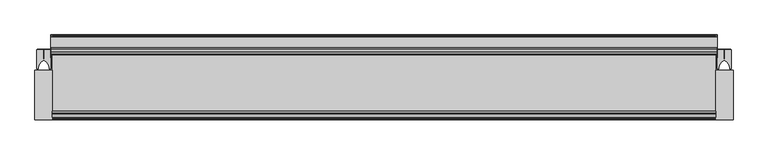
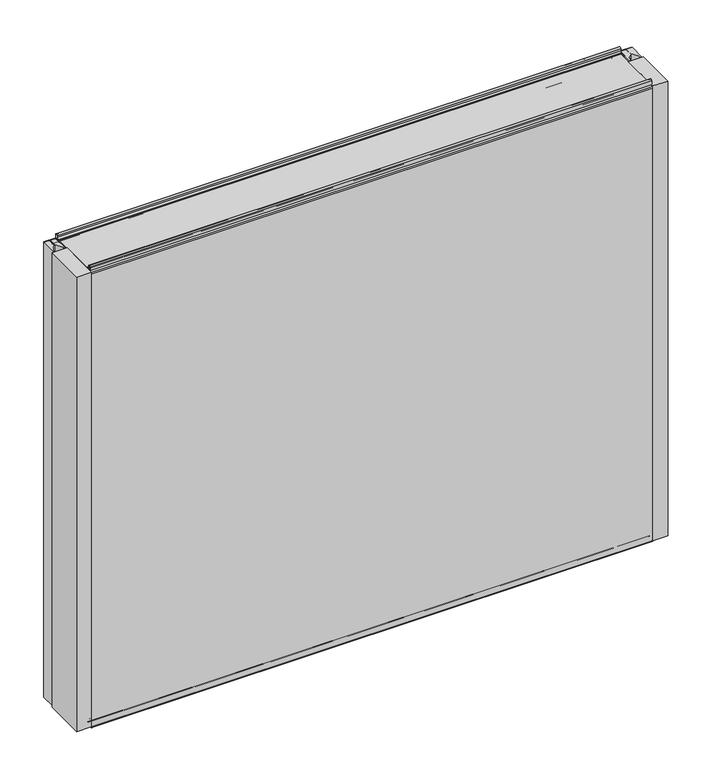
"""IFC4 building model written with IfcOpenShell, lengths in millimetres: plate geometry, Fronttop : Fronttop 150/1000."""

from ifc_helpers import new_model, si_unit, point, frame, frame_2d, origin, origin_with_axes, place, context, project, spatial, polyline, circle_curve, trimmed, segment, composite_curve, outline, extrude, source, transform, mapped, element, save
from ifc_brep_helpers import plane_surface, cylinder_surface, revolved_surface, advanced_brep


def plate_eae69fd8(model_context):
    return source(origin(), model_context, "Body", "SolidModel", [
        advanced_brep(
        [(-586.5, 124.0, 1008.0), (-586.5, 121.0, 1008.0), (-586.5, 121.0, 1004.0), (-586.5, 117.0, 1000.0), (-586.5, 115.0, 1000.0), (-586.5, 115.0, 1001.0), (-586.5, 117.0, 1001.0), (-586.5, 120.0, 1004.0), (-586.5, 120.0, 1008.0), (-586.5, 125.0, 1008.0), (-586.5, 125.0, 1000.0), (-586.5, 124.0, 1000.0), (586.5, 125.0, 1008.0), (586.5, 120.0, 1008.0), (586.5, 120.0, 1004.0), (586.5, 117.0, 1001.0), (586.5, 115.0, 1001.0), (586.5, 115.0, 1000.0), (586.5, 117.0, 1000.0), (586.5, 121.0, 1004.0), (586.5, 121.0, 1008.0), (586.5, 124.0, 1008.0), (586.5, 124.0, 1000.0), (586.5, 125.0, 1000.0), (-586.5, 117.0, 2.0), (586.5, 117.0, 2.0), (586.5, 115.0, 2.0), (-586.5, 115.0, 2.0), (-586.5, 119.0, 4.0), (586.5, 119.0, 4.0), (-586.5, 119.0, 8.0), (586.5, 119.0, 8.0), (-586.5, 126.0, 8.0), (586.5, 126.0, 8.0), (-586.5, 126.0, 0.0), (586.5, 126.0, 0.0), (-586.5, 129.0, -3.0), (586.5, 129.0, -3.0), (-586.5, 125.0, -3.0), (-587.5, 125.0, -3.0), (-587.5, 147.0, -3.0), (-586.5, 147.0, -3.0), (586.5, 147.0, -3.0), (587.5, 147.0, -3.0), (587.5, 125.0, -3.0), (586.5, 125.0, -3.0), (-586.5, 150.0, 0.0), (586.5, 150.0, 0.0), (-587.5, 150.0, 0.0), (-587.5, 150.0, 969.0), (-586.5, 150.0, 969.0), (586.5, 150.0, 969.0), (587.5, 150.0, 969.0), (587.5, 150.0, 0.0), (-586.5, 147.0, 972.0), (586.5, 147.0, 972.0), (-587.5, 147.0, 972.0), (-587.5, 128.0, 972.0), (-586.5, 128.0, 972.0), (586.5, 128.0, 972.0), (587.5, 128.0, 972.0), (587.5, 147.0, 972.0), (-586.5, 125.0, 975.0), (586.5, 125.0, 975.0), (-587.5, 125.0, 975.0), (-587.5, 125.0, 1000.0), (587.5, 125.0, 1000.0), (587.5, 125.0, 975.0), (-586.5, 124.0, 975.0), (586.5, 124.0, 975.0), (-586.5, 128.0, 971.0), (586.5, 128.0, 971.0), (-586.5, 147.0, 971.0), (586.5, 147.0, 971.0), (-586.5, 149.0, 969.0), (586.5, 149.0, 969.0), (-586.5, 149.0, 0.0), (586.5, 149.0, 0.0), (-586.5, 147.0, -2.0), (586.5, 147.0, -2.0), (-586.5, 129.0, -2.0), (586.5, 129.0, -2.0), (-586.5, 127.0, 0.0), (586.5, 127.0, 0.0), (-586.5, 127.0, 8.0), (586.5, 127.0, 8.0), (-586.5, 118.0, 8.0), (586.5, 118.0, 8.0), (-586.5, 118.0, 4.0), (586.5, 118.0, 4.0), (-586.5, 117.0, 3.0), (586.5, 117.0, 3.0), (-586.5, 115.0, 3.0), (586.5, 115.0, 3.0), (587.5, 110.0, 1000.0), (587.5, 110.0, 0.0), (587.5, 125.0, 0.0), (586.5, 125.0, 0.0), (586.5, 110.0, 0.0), (586.5, 110.0, 1000.0), (-587.5, 125.0, 0.0), (-587.5, 110.0, 0.0), (-587.5, 110.0, 1000.0), (-586.5, 110.0, 1000.0), (-586.5, 110.0, 0.0), (-586.5, 125.0, 0.0)],
        [
            (0, 1, circle_curve(frame((-586.5, 122.5, 1008.0), z_axis=(1.0, 0.0, 0.0), x_axis=(0.0, -1.0, 0.0)), 1.5)),
            (1, 2),
            (2, 3, circle_curve(frame((-586.5, 117.0, 1004.0), z_axis=(-1.0, 0.0, 0.0), x_axis=(0.0, -1.0, 0.0)), 4.0)),
            (3, 4),
            (4, 5),
            (5, 6),
            (6, 7, circle_curve(frame((-586.5, 117.0, 1004.0), z_axis=(1.0, 0.0, 0.0), x_axis=(0.0, -1.0, 0.0)), 3.0)),
            (7, 8),
            (8, 9, circle_curve(frame((-586.5, 122.5, 1008.0), z_axis=(-1.0, 0.0, 0.0), x_axis=(0.0, -1.0, 0.0)), 2.5)),
            (9, 10),
            (10, 11),
            (11, 0),
            (12, 13, circle_curve(frame((586.5, 122.5, 1008.0), z_axis=(1.0, 0.0, 0.0), x_axis=(0.0, -1.0, 0.0)), 2.5)),
            (13, 14),
            (14, 15, circle_curve(frame((586.5, 117.0, 1004.0), z_axis=(-1.0, 0.0, 0.0), x_axis=(0.0, -1.0, 0.0)), 3.0)),
            (15, 16),
            (16, 17),
            (17, 18),
            (18, 19, circle_curve(frame((586.5, 117.0, 1004.0), z_axis=(1.0, 0.0, 0.0), x_axis=(0.0, -1.0, 0.0)), 4.0)),
            (19, 20),
            (20, 21, circle_curve(frame((586.5, 122.5, 1008.0), z_axis=(-1.0, 0.0, 0.0), x_axis=(0.0, -1.0, 0.0)), 1.5)),
            (21, 22),
            (22, 23),
            (23, 12),
            (24, 25),
            (25, 26),
            (26, 27),
            (27, 24),
            (24, 28, circle_curve(frame((-586.5, 117.0, 4.0), z_axis=(1.0, 0.0, 0.0), x_axis=(0.0, -1.0, 0.0)), 2.0)),
            (28, 29),
            (29, 25, circle_curve(frame((586.5, 117.0, 4.0), z_axis=(-1.0, 0.0, 0.0), x_axis=(0.0, -1.0, 0.0)), 2.0)),
            (28, 30),
            (30, 31),
            (31, 29),
            (30, 32, circle_curve(frame((-586.5, 122.5, 8.0), z_axis=(-1.0, 0.0, 0.0), x_axis=(0.0, -1.0, 0.0)), 3.5)),
            (32, 33),
            (33, 31, circle_curve(frame((586.5, 122.5, 8.0), z_axis=(1.0, 0.0, 0.0), x_axis=(0.0, -1.0, 0.0)), 3.5)),
            (32, 34),
            (34, 35),
            (35, 33),
            (34, 36, circle_curve(frame((-586.5, 129.0, 0.0), z_axis=(1.0, 0.0, 0.0), x_axis=(0.0, -1.0, 0.0)), 3.0)),
            (36, 37),
            (37, 35, circle_curve(frame((586.5, 129.0, 0.0), z_axis=(-1.0, 0.0, 0.0), x_axis=(0.0, -1.0, 0.0)), 3.0)),
            (36, 38),
            (38, 39),
            (39, 40),
            (40, 41),
            (41, 42),
            (42, 43),
            (43, 44),
            (44, 45),
            (45, 37),
            (41, 46, circle_curve(frame((-586.5, 147.0, 0.0), z_axis=(1.0, 0.0, 0.0), x_axis=(0.0, -1.0, 0.0)), 3.0)),
            (46, 47),
            (47, 42, circle_curve(frame((586.5, 147.0, 0.0), z_axis=(-1.0, 0.0, 0.0), x_axis=(0.0, -1.0, 0.0)), 3.0)),
            (46, 48),
            (48, 49),
            (49, 50),
            (50, 51),
            (51, 52),
            (52, 53),
            (53, 47),
            (50, 54, circle_curve(frame((-586.5, 147.0, 969.0), z_axis=(1.0, 0.0, 0.0), x_axis=(0.0, -1.0, 0.0)), 3.0)),
            (54, 55),
            (55, 51, circle_curve(frame((586.5, 147.0, 969.0), z_axis=(-1.0, 0.0, 0.0), x_axis=(0.0, -1.0, 0.0)), 3.0)),
            (54, 56),
            (56, 57),
            (57, 58),
            (58, 59),
            (59, 60),
            (60, 61),
            (61, 55),
            (58, 62, circle_curve(frame((-586.5, 128.0, 975.0), z_axis=(-1.0, 0.0, 0.0), x_axis=(0.0, -1.0, 0.0)), 3.0)),
            (62, 63),
            (63, 59, circle_curve(frame((586.5, 128.0, 975.0), z_axis=(1.0, 0.0, 0.0), x_axis=(0.0, -1.0, 0.0)), 3.0)),
            (62, 64),
            (64, 65),
            (65, 10),
            (9, 12),
            (23, 66),
            (66, 67),
            (67, 63),
            (8, 13),
            (7, 14),
            (6, 15),
            (5, 16),
            (4, 17),
            (4, 3),
            (3, 18),
            (18, 17),
            (2, 19),
            (1, 20),
            (0, 21),
            (11, 68),
            (68, 69),
            (69, 22),
            (68, 70, circle_curve(frame((-586.5, 128.0, 975.0), z_axis=(1.0, 0.0, 0.0), x_axis=(0.0, -1.0, 0.0)), 4.0)),
            (70, 71),
            (71, 69, circle_curve(frame((586.5, 128.0, 975.0), z_axis=(-1.0, 0.0, 0.0), x_axis=(0.0, -1.0, 0.0)), 4.0)),
            (70, 72),
            (72, 73),
            (73, 71),
            (72, 74, circle_curve(frame((-586.5, 147.0, 969.0), z_axis=(-1.0, 0.0, 0.0), x_axis=(0.0, -1.0, 0.0)), 2.0)),
            (74, 75),
            (75, 73, circle_curve(frame((586.5, 147.0, 969.0), z_axis=(1.0, 0.0, 0.0), x_axis=(0.0, -1.0, 0.0)), 2.0)),
            (74, 76),
            (76, 77),
            (77, 75),
            (76, 78, circle_curve(frame((-586.5, 147.0, 0.0), z_axis=(-1.0, 0.0, 0.0), x_axis=(0.0, -1.0, 0.0)), 2.0)),
            (78, 79),
            (79, 77, circle_curve(frame((586.5, 147.0, 0.0), z_axis=(1.0, 0.0, 0.0), x_axis=(0.0, -1.0, 0.0)), 2.0)),
            (78, 80),
            (80, 81),
            (81, 79),
            (80, 82, circle_curve(frame((-586.5, 129.0, 0.0), z_axis=(-1.0, 0.0, 0.0), x_axis=(0.0, -1.0, 0.0)), 2.0)),
            (82, 83),
            (83, 81, circle_curve(frame((586.5, 129.0, 0.0), z_axis=(1.0, 0.0, 0.0), x_axis=(0.0, -1.0, 0.0)), 2.0)),
            (82, 84),
            (84, 85),
            (85, 83),
            (84, 86, circle_curve(frame((-586.5, 122.5, 8.0), z_axis=(1.0, 0.0, 0.0), x_axis=(0.0, -1.0, 0.0)), 4.5)),
            (86, 87),
            (87, 85, circle_curve(frame((586.5, 122.5, 8.0), z_axis=(-1.0, 0.0, 0.0), x_axis=(0.0, -1.0, 0.0)), 4.5)),
            (86, 88),
            (88, 89),
            (89, 87),
            (88, 90, circle_curve(frame((-586.5, 117.0, 4.0), z_axis=(-1.0, 0.0, 0.0), x_axis=(0.0, -1.0, 0.0)), 1.0)),
            (90, 91),
            (91, 89, circle_curve(frame((586.5, 117.0, 4.0), z_axis=(1.0, 0.0, 0.0), x_axis=(0.0, -1.0, 0.0)), 1.0)),
            (90, 92),
            (92, 93),
            (93, 91),
            (26, 93),
            (92, 27),
            (66, 94),
            (94, 95),
            (95, 96),
            (96, 44),
            (43, 53, circle_curve(frame((587.5, 147.0, 0.0), z_axis=(1.0, 0.0, 0.0), x_axis=(0.0, 1.0, 0.0)), 3.0)),
            (52, 61, circle_curve(frame((587.5, 147.0, 969.0), z_axis=(1.0, 0.0, 0.0), x_axis=(0.0, 1.0, 0.0)), 3.0)),
            (60, 67, circle_curve(frame((587.5, 128.0, 975.0), z_axis=(-1.0, 0.0, 0.0), x_axis=(0.0, 1.0, 0.0)), 3.0)),
            (45, 97),
            (97, 98),
            (98, 99),
            (99, 17),
            (18, 22),
            (99, 94),
            (98, 95),
            (97, 96),
            (64, 57, circle_curve(frame((-587.5, 128.0, 975.0), z_axis=(1.0, 0.0, 0.0), x_axis=(0.0, 1.0, 0.0)), 3.0)),
            (56, 49, circle_curve(frame((-587.5, 147.0, 969.0), z_axis=(-1.0, 0.0, 0.0), x_axis=(0.0, 1.0, 0.0)), 3.0)),
            (48, 40, circle_curve(frame((-587.5, 147.0, 0.0), z_axis=(-1.0, 0.0, 0.0), x_axis=(0.0, 1.0, 0.0)), 3.0)),
            (39, 100),
            (100, 101),
            (101, 102),
            (102, 65),
            (103, 104),
            (104, 105),
            (105, 38),
            (11, 3),
            (4, 103),
            (102, 103),
            (101, 104),
            (100, 105),
        ],
        [
            plane_surface(frame((-586.5, 0.0, 0.0), z_axis=(-1.0, 0.0, 0.0), x_axis=(0.0, 0.0, 1.0))),
            plane_surface(frame((586.5, 0.0, 0.0), z_axis=(1.0, 0.0, 0.0), x_axis=(0.0, 0.0, 1.0))),
            plane_surface(frame((-586.5, 117.0, 2.0), z_axis=(0.0, 0.0, -1.0), x_axis=(1.0, 0.0, 0.0))),
            cylinder_surface(frame((-586.5, 117.0, 4.0), z_axis=(-1.0, 0.0, 0.0), x_axis=(0.0, -1.0, 0.0)), 2.0),
            plane_surface(frame((-586.5, 119.0, 8.0), z_axis=(0.0, 1.0, 0.0), x_axis=(1.0, 0.0, 0.0))),
            revolved_surface(polyline([(586.5, 119.0, 8.0), (-586.5, 119.0, 8.0)]), (-586.5, 122.5, 8.0), (1.0, 0.0, 0.0)),
            plane_surface(frame((-586.5, 126.0, 0.0), z_axis=(0.0, -1.0, 0.0), x_axis=(1.0, 0.0, 0.0))),
            cylinder_surface(frame((-586.5, 129.0, 0.0), z_axis=(-1.0, 0.0, 0.0), x_axis=(0.0, -1.0, 0.0)), 3.0),
            plane_surface(frame((-586.5, 147.0, -3.0), z_axis=(0.0, 0.0, -1.0), x_axis=(1.0, 0.0, 0.0))),
            cylinder_surface(frame((-586.5, 147.0, 0.0), z_axis=(-1.0, 0.0, 0.0), x_axis=(0.0, -1.0, 0.0)), 3.0),
            plane_surface(frame((-586.5, 150.0, 969.0), z_axis=(0.0, 1.0, 0.0), x_axis=(1.0, 0.0, 0.0))),
            cylinder_surface(frame((-586.5, 147.0, 969.0), z_axis=(-1.0, 0.0, 0.0), x_axis=(0.0, -1.0, 0.0)), 3.0),
            plane_surface(frame((-586.5, 128.0, 972.0), z_axis=(0.0, 0.0, 1.0), x_axis=(1.0, 0.0, 0.0))),
            revolved_surface(polyline([(586.5, 125.0, 975.0), (-586.5, 125.0, 975.0)]), (-586.5, 128.0, 975.0), (1.0, 0.0, 0.0)),
            plane_surface(frame((-586.5, 125.0, 1008.0), z_axis=(0.0, 1.0, 0.0), x_axis=(1.0, 0.0, 0.0))),
            cylinder_surface(frame((-586.5, 122.5, 1008.0), z_axis=(-1.0, 0.0, 0.0), x_axis=(0.0, -1.0, 0.0)), 2.5),
            plane_surface(frame((-586.5, 120.0, 1004.0), z_axis=(0.0, -1.0, 0.0), x_axis=(1.0, 0.0, 0.0))),
            revolved_surface(polyline([(586.5, 114.0, 1004.0), (-586.5, 114.0, 1004.0)]), (-586.5, 117.0, 1004.0), (1.0, 0.0, 0.0)),
            plane_surface(frame((-586.5, 115.0, 1001.0), z_axis=(0.0, 0.0, 1.0), x_axis=(1.0, 0.0, 0.0))),
            plane_surface(frame((-586.5, 115.0, 1000.0), z_axis=(0.0, -1.0, 0.0), x_axis=(1.0, 0.0, 0.0))),
            plane_surface(frame((-586.5, 117.0, 1000.0), z_axis=(0.0, 0.0, -1.0), x_axis=(1.0, 0.0, 0.0))),
            cylinder_surface(frame((-586.5, 117.0, 1004.0), z_axis=(-1.0, 0.0, 0.0), x_axis=(0.0, -1.0, 0.0)), 4.0),
            plane_surface(frame((-586.5, 121.0, 1008.0), z_axis=(0.0, 1.0, 0.0), x_axis=(1.0, 0.0, 0.0))),
            revolved_surface(polyline([(586.5, 121.0, 1008.0), (-586.5, 121.0, 1008.0)]), (-586.5, 122.5, 1008.0), (1.0, 0.0, 0.0)),
            plane_surface(frame((-586.5, 124.0, 975.0), z_axis=(0.0, -1.0, 0.0), x_axis=(1.0, 0.0, 0.0))),
            cylinder_surface(frame((-586.5, 128.0, 975.0), z_axis=(-1.0, 0.0, 0.0), x_axis=(0.0, -1.0, 0.0)), 4.0),
            plane_surface(frame((-586.5, 147.0, 971.0), z_axis=(0.0, 0.0, -1.0), x_axis=(1.0, 0.0, 0.0))),
            revolved_surface(polyline([(586.5, 145.0, 969.0), (-586.5, 145.0, 969.0)]), (-586.5, 147.0, 969.0), (1.0, 0.0, 0.0)),
            plane_surface(frame((-586.5, 149.0, 0.0), z_axis=(0.0, -1.0, 0.0), x_axis=(1.0, 0.0, 0.0))),
            revolved_surface(polyline([(586.5, 145.0, 0.0), (-586.5, 145.0, 0.0)]), (-586.5, 147.0, 0.0), (1.0, 0.0, 0.0)),
            plane_surface(frame((-586.5, 129.0, -2.0), z_axis=(0.0, 0.0, 1.0), x_axis=(1.0, 0.0, 0.0))),
            revolved_surface(polyline([(586.5, 127.0, 0.0), (-586.5, 127.0, 0.0)]), (-586.5, 129.0, 0.0), (1.0, 0.0, 0.0)),
            plane_surface(frame((-586.5, 127.0, 8.0), z_axis=(0.0, 1.0, 0.0), x_axis=(1.0, 0.0, 0.0))),
            cylinder_surface(frame((-586.5, 122.5, 8.0), z_axis=(-1.0, 0.0, 0.0), x_axis=(0.0, -1.0, 0.0)), 4.5),
            plane_surface(frame((-586.5, 118.0, 4.0), z_axis=(0.0, -1.0, 0.0), x_axis=(1.0, 0.0, 0.0))),
            revolved_surface(polyline([(586.5, 116.0, 4.0), (-586.5, 116.0, 4.0)]), (-586.5, 117.0, 4.0), (1.0, 0.0, 0.0)),
            plane_surface(frame((-586.5, 115.0, 3.0), z_axis=(0.0, 0.0, 1.0), x_axis=(1.0, 0.0, 0.0))),
            plane_surface(frame((-586.5, 115.0, 2.0), z_axis=(0.0, -1.0, 0.0), x_axis=(1.0, 0.0, 0.0))),
            plane_surface(frame((587.5, 125.0, 1000.0), z_axis=(1.0, 0.0, 0.0), x_axis=(0.0, -1.0, 0.0))),
            plane_surface(frame((586.5, 125.0, 1000.0), z_axis=(-1.0, 0.0, 0.0), x_axis=(0.0, 1.0, 0.0))),
            plane_surface(frame((587.5, 125.0, 1000.0), z_axis=(0.0, 0.0, 1.0), x_axis=(-1.0, 0.0, 0.0))),
            plane_surface(frame((587.5, 110.0, 1000.0), z_axis=(0.0, -1.0, 0.0), x_axis=(-1.0, 0.0, 0.0))),
            plane_surface(frame((587.5, 110.0, 0.0), z_axis=(0.0, 0.0, -1.0), x_axis=(-1.0, 0.0, 0.0))),
            cylinder_surface(frame((586.5, 147.0, 0.0), z_axis=(1.0, 0.0, 0.0), x_axis=(0.0, 1.0, 0.0)), 3.0),
            cylinder_surface(frame((586.5, 147.0, 969.0), z_axis=(1.0, 0.0, 0.0), x_axis=(0.0, 1.0, 0.0)), 3.0),
            revolved_surface(polyline([(586.5, 131.0, 975.0), (587.5, 131.0, 975.0)]), (586.5, 128.0, 975.0), (-1.0, 0.0, 0.0)),
            plane_surface(frame((-587.5, 125.0, 1000.0), z_axis=(-1.0, 0.0, 0.0), x_axis=(0.0, 1.0, 0.0))),
            plane_surface(frame((-586.5, 125.0, 1000.0), z_axis=(1.0, 0.0, 0.0), x_axis=(0.0, -1.0, 0.0))),
            plane_surface(frame((-586.5, 125.0, 1000.0), z_axis=(0.0, 0.0, 1.0), x_axis=(-1.0, 0.0, 0.0))),
            plane_surface(frame((-586.5, 110.0, 1000.0), z_axis=(0.0, -1.0, 0.0), x_axis=(-1.0, 0.0, 0.0))),
            plane_surface(frame((-586.5, 110.0, 0.0), z_axis=(0.0, 0.0, -1.0), x_axis=(-1.0, 0.0, 0.0))),
            cylinder_surface(frame((-587.5, 147.0, 0.0), z_axis=(1.0, 0.0, 0.0), x_axis=(0.0, 1.0, 0.0)), 3.0),
            cylinder_surface(frame((-587.5, 147.0, 969.0), z_axis=(1.0, 0.0, 0.0), x_axis=(0.0, 1.0, 0.0)), 3.0),
            revolved_surface(polyline([(-587.5, 131.0, 975.0), (-586.5, 131.0, 975.0)]), (-587.5, 128.0, 975.0), (-1.0, 0.0, 0.0)),
            plane_surface(frame((587.5, 125.0, 0.0), z_axis=(0.0, -1.0, 0.0), x_axis=(-1.0, 0.0, 0.0))),
            plane_surface(frame((-586.5, 125.0, 0.0), z_axis=(0.0, -1.0, 0.0), x_axis=(-1.0, 0.0, 0.0))),
        ],
        [
            (0, [[1, 2, 3, 4, 5, 6, 7, 8, 9, 10, 11, 12]]),
            (1, [[13, 14, 15, 16, 17, 18, 19, 20, 21, 22, 23, 24]]),
            (2, [[25, 26, 27, 28]]),
            (3, [[-25, 29, 30, 31]]),
            (4, [[-30, 32, 33, 34]]),
            (5, [[-33, 35, 36, 37]]),
            (6, [[-36, 38, 39, 40]]),
            (7, [[-39, 41, 42, 43]]),
            (8, [[-42, 44, 45, 46, 47, 48, 49, 50, 51, 52]]),
            (9, [[-48, 53, 54, 55]]),
            (10, [[-54, 56, 57, 58, 59, 60, 61, 62]]),
            (11, [[-59, 63, 64, 65]]),
            (12, [[-64, 66, 67, 68, 69, 70, 71, 72]]),
            (13, [[-69, 73, 74, 75]]),
            (14, [[-74, 76, 77, 78, -10, 79, -24, 80, 81, 82]]),
            (15, [[-9, 83, -13, -79]]),
            (16, [[-8, 84, -14, -83]]),
            (17, [[-7, 85, -15, -84]]),
            (18, [[-6, 86, -16, -85]]),
            (19, [[-5, 87, -17, -86]]),
            (20, [[-87, 88, 89, 90]]),
            (21, [[-3, 91, -19, -89]]),
            (22, [[-2, 92, -20, -91]]),
            (23, [[-1, 93, -21, -92]]),
            (24, [[-93, -12, 94, 95, 96, -22]]),
            (25, [[-95, 97, 98, 99]]),
            (26, [[-98, 100, 101, 102]]),
            (27, [[-101, 103, 104, 105]]),
            (28, [[-104, 106, 107, 108]]),
            (29, [[-107, 109, 110, 111]]),
            (30, [[-110, 112, 113, 114]]),
            (31, [[-113, 115, 116, 117]]),
            (32, [[-116, 118, 119, 120]]),
            (33, [[-119, 121, 122, 123]]),
            (34, [[-122, 124, 125, 126]]),
            (35, [[-125, 127, 128, 129]]),
            (36, [[-128, 130, 131, 132]]),
            (37, [[-27, 133, -131, 134]]),
            (38, [[135, 136, 137, 138, -50, 139, -61, 140, -71, 141, -81]]),
            (39, [[142, 143, 144, 145, -90, 146, -96, -99, -102, -105, -108, -111, -114, -117, -120, -123, -126, -129, -132, -133, -26, -31, -34, -37, -40, -43, -52]]),
            (40, [[-135, -80, -23, -146, -18, -145, 147]]),
            (41, [[-136, -147, -144, 148]]),
            (42, [[-137, -148, -143, 149]]),
            (43, [[-139, -49, -55, -62]]),
            (44, [[-140, -60, -65, -72]]),
            (45, [[-141, -70, -75, -82]]),
            (46, [[-77, 150, -67, 151, -57, 152, -46, 153, 154, 155, 156]]),
            (47, [[157, 158, 159, -44, -41, -38, -35, -32, -29, -28, -134, -130, -127, -124, -121, -118, -115, -112, -109, -106, -103, -100, -97, -94, 160, -88, 161]]),
            (48, [[-156, 162, -161, -4, -160, -11, -78]]),
            (49, [[-155, 163, -157, -162]]),
            (50, [[-154, 164, -158, -163]]),
            (51, [[-152, -56, -53, -47]]),
            (52, [[-151, -66, -63, -58]]),
            (53, [[-150, -76, -73, -68]]),
            (54, [[-138, -149, -142, -51]]),
            (55, [[-153, -45, -159, -164]]),
        ],
    ),
        extrude(outline(composite_curve([segment(polyline([(-612.5001545, 123.5), (-600.75, 123.5), (-600.75, 107.5), (-599.25, 107.5), (-599.25, 123.5), (-587.4998455, 123.5), (-587.4998455, 90.0), (-590.25, 90.0), (-590.25, 92.5)]), True, "CONTINUOUS"), segment(trimmed(circle_curve(frame_2d((-608.0338021, 89.3183984)), 18.0661619), [point((-590.25, 92.5))], [point((-600.0, 105.5))], True, "CARTESIAN"), True, "CONTINUOUS"), segment(trimmed(circle_curve(frame_2d((-591.9661979, 89.3183984)), 18.0661619), [point((-600.0, 105.5))], [point((-609.75, 92.5))], True, "CARTESIAN"), True, "CONTINUOUS"), segment(polyline([(-609.75, 92.5), (-609.75, 90.0), (-612.5001545, 90.0), (-612.5001545, 123.5)]), True, "CONTINUOUS")], self_intersect=False)), origin_with_axes(), (0.0, 0.0, 1.0), 1000.0),
        extrude(outline(polyline([(-584.5, 0.0), (-615.5, 0.0), (-615.5, 88.0), (-584.5, 88.0), (-584.5, 0.0)])), origin_with_axes(), (0.0, 0.0, 1.0), 1000.0),
        extrude(outline(polyline([(-611.5051154, 125.0), (-588.4948846, 125.0), (-588.4948846, 123.5), (-599.3497504, 123.5), (-599.3497504, 109.0759655), (-600.65, 109.0759655), (-600.65, 123.5), (-611.5051154, 123.5), (-611.5051154, 125.0)])), origin_with_axes(), (0.0, 0.0, 1.0), 1000.0),
        extrude(outline(composite_curve([segment(polyline([(587.4998455, 123.5), (599.25, 123.5), (599.25, 107.5), (600.75, 107.5), (600.75, 123.5), (612.5001545, 123.5), (612.5001545, 90.0), (609.75, 90.0), (609.75, 92.5)]), True, "CONTINUOUS"), segment(trimmed(circle_curve(frame_2d((591.9661979, 89.3183984)), 18.0661619), [point((609.75, 92.5))], [point((600.0, 105.5))], True, "CARTESIAN"), True, "CONTINUOUS"), segment(trimmed(circle_curve(frame_2d((608.0338021, 89.3183984)), 18.0661619), [point((600.0, 105.5))], [point((590.25, 92.5))], True, "CARTESIAN"), True, "CONTINUOUS"), segment(polyline([(590.25, 92.5), (590.25, 90.0), (587.4998455, 90.0), (587.4998455, 123.5)]), True, "CONTINUOUS")], self_intersect=False)), origin_with_axes(), (0.0, 0.0, 1.0), 1000.0),
        extrude(outline(polyline([(615.5, 0.0), (584.5, 0.0), (584.5, 88.0), (615.5, 88.0), (615.5, 0.0)])), origin_with_axes(), (0.0, 0.0, 1.0), 1000.0),
        extrude(outline(polyline([(588.4948846, 125.0), (611.5051154, 125.0), (611.5051154, 123.5), (600.6502496, 123.5), (600.6502496, 109.0759655), (599.35, 109.0759655), (599.35, 123.5), (588.4948846, 123.5), (588.4948846, 125.0)])), origin_with_axes(), (0.0, 0.0, 1.0), 1000.0),
        advanced_brep(
        [(-584.5, 13.0, 1001.0), (-584.5, 15.0, 1001.0), (-584.5, 15.0, 1000.0), (-584.5, 13.0, 1000.0), (-584.5, 9.0, 1004.0), (-584.5, 9.0, 1008.0), (-584.5, 6.0, 1008.0), (-584.5, 6.0, 999.5), (-584.5, 2.1134897, 996.0214069), (-584.5, 1.0, 995.0), (-584.5, 1.0, -0.5), (-584.5, 3.0, -0.5), (-584.5, 3.0, 8.0), (-584.5, 12.0, 8.0), (-584.5, 12.0, 4.0), (-584.5, 13.0, 3.0), (-584.5, 15.0, 3.0), (-584.5, 15.0, 2.0), (-584.5, 13.0, 2.0), (-584.5, 11.0, 4.0), (-584.5, 11.0, 8.0), (-584.5, 4.0, 8.0), (-584.5, 4.0, -0.5), (-584.5, 0.0, -0.5), (-584.5, 0.0, 995.0), (-584.5, 2.220863, 996.9877675), (-584.5, 5.0, 999.5), (-584.5, 5.0, 1008.0), (-584.5, 10.0, 1008.0), (-584.5, 10.0, 1004.0), (584.5, 13.0, 1001.0), (584.5, 10.0, 1004.0), (584.5, 10.0, 1008.0), (584.5, 5.0, 1008.0), (584.5, 5.0, 999.5), (584.5, 2.2239212, 997.0152907), (584.5, 0.0, 995.0), (584.5, 0.0, -0.5), (584.5, 4.0, -0.5), (584.5, 4.0, 8.0), (584.5, 11.0, 8.0), (584.5, 11.0, 4.0), (584.5, 13.0, 2.0), (584.5, 15.0, 2.0), (584.5, 15.0, 3.0), (584.5, 13.0, 3.0), (584.5, 12.0, 4.0), (584.5, 12.0, 8.0), (584.5, 3.0, 8.0), (584.5, 3.0, -0.5), (584.5, 1.0, -0.5), (584.5, 1.0, 995.0), (584.5, 2.1104315, 995.9938837), (584.5, 6.0, 999.5), (584.5, 6.0, 1008.0), (584.5, 9.0, 1008.0), (584.5, 9.0, 1004.0), (584.5, 13.0, 1000.0), (584.5, 15.0, 1000.0), (584.5, 15.0, 1001.0)],
        [
            (0, 1),
            (1, 2),
            (2, 3),
            (3, 4, circle_curve(frame((-584.5, 13.0, 1004.0), z_axis=(-1.0, 0.0, 0.0), x_axis=(0.0, -1.0, 0.0)), 4.0)),
            (4, 5),
            (5, 6, circle_curve(frame((-584.5, 7.5, 1008.0), z_axis=(1.0, 0.0, 0.0), x_axis=(0.0, -1.0, 0.0)), 1.5)),
            (6, 7),
            (7, 8, circle_curve(frame((-584.5, 2.5, 999.5), z_axis=(-1.0, 0.0, 0.0), x_axis=(0.0, -1.0, 0.0)), 3.5)),
            (8, 9, circle_curve(frame((-584.5, 2.0, 995.0), z_axis=(1.0, 0.0, 0.0), x_axis=(0.0, -1.0, 0.0)), 1.0)),
            (9, 10),
            (10, 11, circle_curve(frame((-584.5, 2.0, -0.5), z_axis=(1.0, 0.0, 0.0), x_axis=(0.0, -1.0, 0.0)), 1.0)),
            (11, 12),
            (12, 13, circle_curve(frame((-584.5, 7.5, 8.0), z_axis=(-1.0, 0.0, 0.0), x_axis=(0.0, -1.0, 0.0)), 4.5)),
            (13, 14),
            (14, 15, circle_curve(frame((-584.5, 13.0, 4.0), z_axis=(1.0, 0.0, 0.0), x_axis=(0.0, -1.0, 0.0)), 1.0)),
            (15, 16),
            (16, 17),
            (17, 18),
            (18, 19, circle_curve(frame((-584.5, 13.0, 4.0), z_axis=(-1.0, 0.0, 0.0), x_axis=(0.0, -1.0, 0.0)), 2.0)),
            (19, 20),
            (20, 21, circle_curve(frame((-584.5, 7.5, 8.0), z_axis=(1.0, 0.0, 0.0), x_axis=(0.0, -1.0, 0.0)), 3.5)),
            (21, 22),
            (22, 23, circle_curve(frame((-584.5, 2.0, -0.5), z_axis=(-1.0, 0.0, 0.0), x_axis=(0.0, -1.0, 0.0)), 2.0)),
            (23, 24),
            (24, 25, circle_curve(frame((-584.5, 2.0, 995.0), z_axis=(-1.0, 0.0, 0.0), x_axis=(0.0, -1.0, 0.0)), 2.0)),
            (25, 26, circle_curve(frame((-584.5, 2.5, 999.5), z_axis=(1.0, 0.0, 0.0), x_axis=(0.0, -1.0, 0.0)), 2.5)),
            (26, 27),
            (27, 28, circle_curve(frame((-584.5, 7.5, 1008.0), z_axis=(-1.0, 0.0, 0.0), x_axis=(0.0, -1.0, 0.0)), 2.5)),
            (28, 29),
            (29, 0, circle_curve(frame((-584.5, 13.0, 1004.0), z_axis=(1.0, 0.0, 0.0), x_axis=(0.0, -1.0, 0.0)), 3.0)),
            (30, 31, circle_curve(frame((584.5, 13.0, 1004.0), z_axis=(-1.0, 0.0, 0.0), x_axis=(0.0, -1.0, 0.0)), 3.0)),
            (31, 32),
            (32, 33, circle_curve(frame((584.5, 7.5, 1008.0), z_axis=(1.0, 0.0, 0.0), x_axis=(0.0, -1.0, 0.0)), 2.5)),
            (33, 34),
            (34, 35, circle_curve(frame((584.5, 2.5, 999.5), z_axis=(-1.0, 0.0, 0.0), x_axis=(0.0, -1.0, 0.0)), 2.5)),
            (35, 36, circle_curve(frame((584.5, 2.0, 995.0), z_axis=(1.0, 0.0, 0.0), x_axis=(0.0, -1.0, 0.0)), 2.0)),
            (36, 37),
            (37, 38, circle_curve(frame((584.5, 2.0, -0.5), z_axis=(1.0, 0.0, 0.0), x_axis=(0.0, -1.0, 0.0)), 2.0)),
            (38, 39),
            (39, 40, circle_curve(frame((584.5, 7.5, 8.0), z_axis=(-1.0, 0.0, 0.0), x_axis=(0.0, -1.0, 0.0)), 3.5)),
            (40, 41),
            (41, 42, circle_curve(frame((584.5, 13.0, 4.0), z_axis=(1.0, 0.0, 0.0), x_axis=(0.0, -1.0, 0.0)), 2.0)),
            (42, 43),
            (43, 44),
            (44, 45),
            (45, 46, circle_curve(frame((584.5, 13.0, 4.0), z_axis=(-1.0, 0.0, 0.0), x_axis=(0.0, -1.0, 0.0)), 1.0)),
            (46, 47),
            (47, 48, circle_curve(frame((584.5, 7.5, 8.0), z_axis=(1.0, 0.0, 0.0), x_axis=(0.0, -1.0, 0.0)), 4.5)),
            (48, 49),
            (49, 50, circle_curve(frame((584.5, 2.0, -0.5), z_axis=(-1.0, 0.0, 0.0), x_axis=(0.0, -1.0, 0.0)), 1.0)),
            (50, 51),
            (51, 52, circle_curve(frame((584.5, 2.0, 995.0), z_axis=(-1.0, 0.0, 0.0), x_axis=(0.0, -1.0, 0.0)), 1.0)),
            (52, 53, circle_curve(frame((584.5, 2.5, 999.5), z_axis=(1.0, 0.0, 0.0), x_axis=(0.0, -1.0, 0.0)), 3.5)),
            (53, 54),
            (54, 55, circle_curve(frame((584.5, 7.5, 1008.0), z_axis=(-1.0, 0.0, 0.0), x_axis=(0.0, -1.0, 0.0)), 1.5)),
            (55, 56),
            (56, 57, circle_curve(frame((584.5, 13.0, 1004.0), z_axis=(1.0, 0.0, 0.0), x_axis=(0.0, -1.0, 0.0)), 4.0)),
            (57, 58),
            (58, 59),
            (59, 30),
            (0, 30),
            (59, 1),
            (58, 2),
            (57, 3),
            (56, 4),
            (55, 5),
            (54, 6),
            (53, 7),
            (52, 8),
            (51, 9),
            (50, 10),
            (49, 11),
            (48, 12),
            (47, 13),
            (46, 14),
            (45, 15),
            (44, 16),
            (43, 17),
            (42, 18),
            (41, 19),
            (40, 20),
            (39, 21),
            (38, 22),
            (37, 23),
            (36, 24),
            (35, 25),
            (34, 26),
            (33, 27),
            (32, 28),
            (31, 29),
        ],
        [
            plane_surface(frame((-584.5, 0.0, 0.0), z_axis=(-1.0, 0.0, 0.0), x_axis=(0.0, 0.0, 1.0))),
            plane_surface(frame((584.5, 0.0, 0.0), z_axis=(1.0, 0.0, 0.0), x_axis=(0.0, 0.0, 1.0))),
            plane_surface(frame((-584.5, 13.0, 1001.0), z_axis=(0.0, 0.0, 1.0), x_axis=(1.0, 0.0, 0.0))),
            plane_surface(frame((-584.5, 15.0, 1001.0), z_axis=(0.0, 1.0, 0.0), x_axis=(1.0, 0.0, 0.0))),
            plane_surface(frame((-584.5, 15.0, 1000.0), z_axis=(0.0, 0.0, -1.0), x_axis=(1.0, 0.0, 0.0))),
            cylinder_surface(frame((-584.5, 13.0, 1004.0), z_axis=(-1.0, 0.0, 0.0), x_axis=(0.0, -1.0, 0.0)), 4.0),
            plane_surface(frame((-584.5, 9.0, 1004.0), z_axis=(0.0, -1.0, 0.0), x_axis=(1.0, 0.0, 0.0))),
            revolved_surface(polyline([(584.5, 6.0, 1008.0), (-584.5, 6.0, 1008.0)]), (-584.5, 7.5, 1008.0), (1.0, 0.0, 0.0)),
            plane_surface(frame((-584.5, 6.0, 1008.0), z_axis=(0.0, 1.0, 0.0), x_axis=(1.0, 0.0, 0.0))),
            cylinder_surface(frame((-584.5, 2.5, 999.5), z_axis=(-1.0, 0.0, 0.0), x_axis=(0.0, -1.0, 0.0)), 3.5),
            revolved_surface(polyline([(584.5, 1.0, 995.0), (-584.5, 1.0, 995.0)]), (-584.5, 2.0, 995.0), (1.0, 0.0, 0.0)),
            plane_surface(frame((-584.5, 1.0, 995.0), z_axis=(0.0, 1.0, 0.0), x_axis=(1.0, 0.0, 0.0))),
            revolved_surface(polyline([(584.5, 1.0, -0.5), (-584.5, 1.0, -0.5)]), (-584.5, 2.0, -0.5), (1.0, 0.0, 0.0)),
            plane_surface(frame((-584.5, 3.0, -0.5), z_axis=(0.0, -1.0, 0.0), x_axis=(1.0, 0.0, 0.0))),
            cylinder_surface(frame((-584.5, 7.5, 8.0), z_axis=(-1.0, 0.0, 0.0), x_axis=(0.0, -1.0, 0.0)), 4.5),
            plane_surface(frame((-584.5, 12.0, 8.0), z_axis=(0.0, 1.0, 0.0), x_axis=(1.0, 0.0, 0.0))),
            revolved_surface(polyline([(584.5, 12.0, 4.0), (-584.5, 12.0, 4.0)]), (-584.5, 13.0, 4.0), (1.0, 0.0, 0.0)),
            plane_surface(frame((-584.5, 13.0, 3.0), z_axis=(0.0, 0.0, 1.0), x_axis=(1.0, 0.0, 0.0))),
            plane_surface(frame((-584.5, 15.0, 3.0), z_axis=(0.0, 1.0, 0.0), x_axis=(1.0, 0.0, 0.0))),
            plane_surface(frame((-584.5, 15.0, 2.0), z_axis=(0.0, 0.0, -1.0), x_axis=(1.0, 0.0, 0.0))),
            cylinder_surface(frame((-584.5, 13.0, 4.0), z_axis=(-1.0, 0.0, 0.0), x_axis=(0.0, -1.0, 0.0)), 2.0),
            plane_surface(frame((-584.5, 11.0, 4.0), z_axis=(0.0, -1.0, 0.0), x_axis=(1.0, 0.0, 0.0))),
            revolved_surface(polyline([(584.5, 4.0, 8.0), (-584.5, 4.0, 8.0)]), (-584.5, 7.5, 8.0), (1.0, 0.0, 0.0)),
            plane_surface(frame((-584.5, 4.0, 8.0), z_axis=(0.0, 1.0, 0.0), x_axis=(1.0, 0.0, 0.0))),
            cylinder_surface(frame((-584.5, 2.0, -0.5), z_axis=(-1.0, 0.0, 0.0), x_axis=(0.0, -1.0, 0.0)), 2.0),
            plane_surface(frame((-584.5, 0.0, -0.5), z_axis=(0.0, -1.0, 0.0), x_axis=(1.0, 0.0, 0.0))),
            cylinder_surface(frame((-584.5, 2.0, 995.0), z_axis=(-1.0, 0.0, 0.0), x_axis=(0.0, -1.0, 0.0)), 2.0),
            revolved_surface(polyline([(584.5, 0.0, 999.5), (-584.5, 0.0, 999.5)]), (-584.5, 2.5, 999.5), (1.0, 0.0, 0.0)),
            plane_surface(frame((-584.5, 5.0, 999.5), z_axis=(0.0, -1.0, 0.0), x_axis=(1.0, 0.0, 0.0))),
            cylinder_surface(frame((-584.5, 7.5, 1008.0), z_axis=(-1.0, 0.0, 0.0), x_axis=(0.0, -1.0, 0.0)), 2.5),
            plane_surface(frame((-584.5, 10.0, 1008.0), z_axis=(0.0, 1.0, 0.0), x_axis=(1.0, 0.0, 0.0))),
            revolved_surface(polyline([(584.5, 10.0, 1004.0), (-584.5, 10.0, 1004.0)]), (-584.5, 13.0, 1004.0), (1.0, 0.0, 0.0)),
        ],
        [
            (0, [[1, 2, 3, 4, 5, 6, 7, 8, 9, 10, 11, 12, 13, 14, 15, 16, 17, 18, 19, 20, 21, 22, 23, 24, 25, 26, 27, 28, 29, 30]]),
            (1, [[31, 32, 33, 34, 35, 36, 37, 38, 39, 40, 41, 42, 43, 44, 45, 46, 47, 48, 49, 50, 51, 52, 53, 54, 55, 56, 57, 58, 59, 60]]),
            (2, [[-1, 61, -60, 62]]),
            (3, [[-2, -62, -59, 63]]),
            (4, [[-3, -63, -58, 64]]),
            (5, [[-4, -64, -57, 65]]),
            (6, [[-5, -65, -56, 66]]),
            (7, [[-6, -66, -55, 67]]),
            (8, [[-7, -67, -54, 68]]),
            (9, [[-8, -68, -53, 69]]),
            (10, [[-9, -69, -52, 70]]),
            (11, [[-10, -70, -51, 71]]),
            (12, [[-11, -71, -50, 72]]),
            (13, [[-12, -72, -49, 73]]),
            (14, [[-13, -73, -48, 74]]),
            (15, [[-14, -74, -47, 75]]),
            (16, [[-15, -75, -46, 76]]),
            (17, [[-16, -76, -45, 77]]),
            (18, [[-17, -77, -44, 78]]),
            (19, [[-18, -78, -43, 79]]),
            (20, [[-19, -79, -42, 80]]),
            (21, [[-20, -80, -41, 81]]),
            (22, [[-21, -81, -40, 82]]),
            (23, [[-22, -82, -39, 83]]),
            (24, [[-23, -83, -38, 84]]),
            (25, [[-24, -84, -37, 85]]),
            (26, [[-25, -85, -36, 86]]),
            (27, [[-26, -86, -35, 87]]),
            (28, [[-27, -87, -34, 88]]),
            (29, [[-28, -88, -33, 89]]),
            (30, [[-29, -89, -32, 90]]),
            (31, [[-30, -90, -31, -61]]),
        ],
    ),
        extrude(outline(composite_curve([segment(polyline([(15.0, 3.0), (13.0, 3.0)]), True, "CONTINUOUS"), segment(trimmed(circle_curve(frame_2d((13.0, 4.0)), 1.0), [point((13.0, 3.0))], [point((12.0, 4.0))], False, "CARTESIAN"), True, "CONTINUOUS"), segment(polyline([(12.0, 4.0), (12.0, 8.0)]), True, "CONTINUOUS"), segment(trimmed(circle_curve(frame_2d((7.5, 8.0)), 4.5), [point((12.0, 8.0))], [point((3.0, 8.0))], True, "CARTESIAN"), True, "CONTINUOUS"), segment(polyline([(3.0, 8.0), (3.0, -0.5)]), True, "CONTINUOUS"), segment(trimmed(circle_curve(frame_2d((2.0, -0.5)), 1.0), [point((3.0, -0.5))], [point((1.0, -0.5))], False, "CARTESIAN"), True, "CONTINUOUS"), segment(polyline([(1.0, -0.5), (1.0, 995.0278643)]), True, "CONTINUOUS"), segment(trimmed(circle_curve(frame_2d((2.0, 995.0278643)), 1.0), [point((1.0, 995.0278643))], [point((2.1111111, 996.0216723))], False, "CARTESIAN"), True, "CONTINUOUS"), segment(trimmed(circle_curve(frame_2d((2.5, 999.5)), 3.5), [point((2.1111111, 996.0216723))], [point((6.0, 999.5))], True, "CARTESIAN"), True, "CONTINUOUS"), segment(polyline([(6.0, 999.5), (6.0, 1008.0)]), True, "CONTINUOUS"), segment(trimmed(circle_curve(frame_2d((7.5, 1008.0)), 1.5), [point((6.0, 1008.0))], [point((9.0, 1008.0))], False, "CARTESIAN"), True, "CONTINUOUS"), segment(polyline([(9.0, 1008.0), (9.0, 1004.0)]), True, "CONTINUOUS"), segment(trimmed(circle_curve(frame_2d((13.0, 1004.0)), 4.0), [point((9.0, 1004.0))], [point((13.0, 1000.0))], True, "CARTESIAN"), True, "CONTINUOUS"), segment(polyline([(13.0, 1000.0), (117.0, 1000.0)]), True, "CONTINUOUS"), segment(trimmed(circle_curve(frame_2d((117.0, 1004.0)), 4.0), [point((117.0, 1000.0))], [point((121.0, 1004.0))], True, "CARTESIAN"), True, "CONTINUOUS"), segment(polyline([(121.0, 1004.0), (121.0, 1008.0)]), True, "CONTINUOUS"), segment(trimmed(circle_curve(frame_2d((122.5, 1008.0)), 1.5), [point((121.0, 1008.0))], [point((124.0, 1008.0))], False, "CARTESIAN"), True, "CONTINUOUS"), segment(polyline([(124.0, 1008.0), (124.0, 975.0)]), True, "CONTINUOUS"), segment(trimmed(circle_curve(frame_2d((128.0, 975.0)), 4.0), [point((124.0, 975.0))], [point((128.0, 971.0))], True, "CARTESIAN"), True, "CONTINUOUS"), segment(polyline([(128.0, 971.0), (147.0, 971.0)]), True, "CONTINUOUS"), segment(trimmed(circle_curve(frame_2d((147.0, 969.0)), 2.0), [point((147.0, 971.0))], [point((149.0, 969.0))], False, "CARTESIAN"), True, "CONTINUOUS"), segment(polyline([(149.0, 969.0), (149.0, 0.0)]), True, "CONTINUOUS"), segment(trimmed(circle_curve(frame_2d((147.0, 0.0)), 2.0), [point((149.0, 0.0))], [point((147.0, -2.0))], False, "CARTESIAN"), True, "CONTINUOUS"), segment(polyline([(147.0, -2.0), (129.0, -2.0)]), True, "CONTINUOUS"), segment(trimmed(circle_curve(frame_2d((129.0, 0.0)), 2.0), [point((129.0, -2.0))], [point((127.0, 0.0))], False, "CARTESIAN"), True, "CONTINUOUS"), segment(polyline([(127.0, 0.0), (127.0, 8.0)]), True, "CONTINUOUS"), segment(trimmed(circle_curve(frame_2d((122.5, 8.0)), 4.5), [point((127.0, 8.0))], [point((118.0, 8.0))], True, "CARTESIAN"), True, "CONTINUOUS"), segment(polyline([(118.0, 8.0), (118.0, 4.0)]), True, "CONTINUOUS"), segment(trimmed(circle_curve(frame_2d((117.0, 4.0)), 1.0), [point((118.0, 4.0))], [point((117.0, 3.0))], False, "CARTESIAN"), True, "CONTINUOUS"), segment(polyline([(117.0, 3.0), (115.0, 3.0), (115.0, 0.0), (15.0, 0.0), (15.0, 3.0)]), True, "CONTINUOUS")], self_intersect=False)), frame((-584.5, 0.0, 0.0), z_axis=(1.0, 0.0, 0.0), x_axis=(0.0, 1.0, 0.0)), (0.0, 0.0, 1.0), 1169.0),
    ])


if __name__ == "__main__":
    model = new_model("IFC4")
    model_context = context("Model", 3, world=origin())
    ifc_project = project(units=[si_unit("LENGTHUNIT", "METRE", prefix="MILLI")], contexts=[model_context])
    site = spatial("IfcSite", under=ifc_project)
    building = spatial("IfcBuilding", under=site)
    placement = place(None, origin())
    plate_shape = plate_eae69fd8(model_context)
    element("IfcPlate", 1, ObjectType="Fronttop : Fronttop 150/1000", at=placement, inside=building, context=model_context, shape_type="MappedRepresentation", body=[
        mapped(plate_shape, transform((0.0, 0.0, 0.0), x_axis=(1.0, 0.0, 0.0), y_axis=(0.0, 1.0, 0.0), z_axis=(0.0, 0.0, 1.0))),
    ])
    save(model, "model.ifc")
